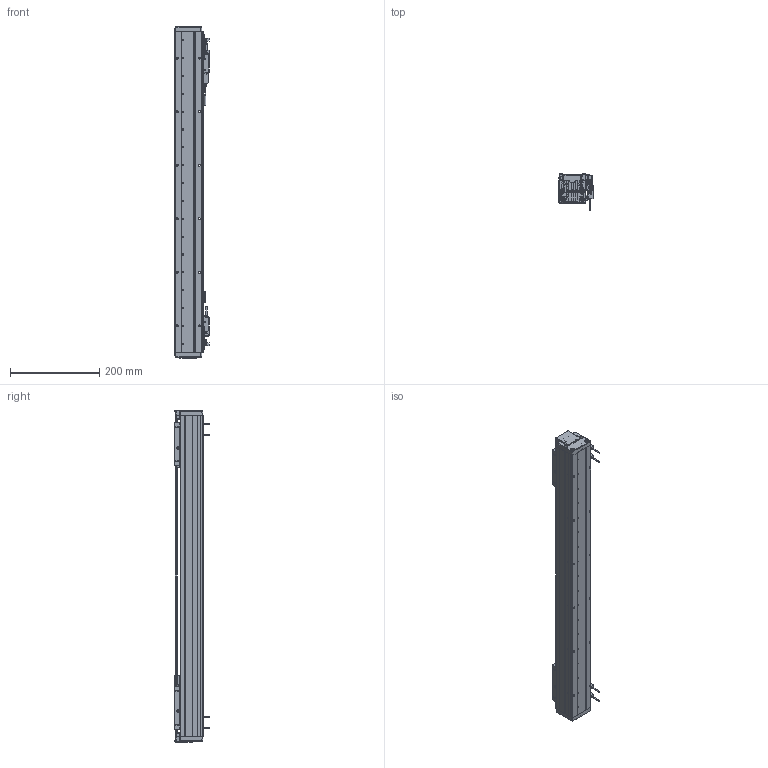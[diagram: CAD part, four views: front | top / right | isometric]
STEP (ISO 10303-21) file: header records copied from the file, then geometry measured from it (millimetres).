
FILE_DESCRIPTION (( 'STEP AP203' ), '1' );
FILE_NAME ('DA-A60-2-B1-T480-C010-0.2 眻盄萇儂.STEP', '2025-08-13T01:15:11', ( '' ), ( '' ), 'SwSTEP 2.0', 'SolidWorks 2019', '' );
FILE_SCHEMA (( 'CONFIG_CONTROL_DESIGN' ));
Length unit declared in the file: millimetre
Products named in the file (27): 葩璃 PM-T45^DA-A60-2-B1-T60-C010-0.2-N; AU60-V 幗紩賑怢; DA60-B1-HT-B-03 賑雄怢啣; DA60-YT-B1-HT-B-01 珨极趙賑雄怢啣-1; ｸｴｼ DA60-DMT-DTJ-ZJ-00 ﾖﾐｼ荼ﾁﾊﾍｷﾖｧｼﾜ^DA-A60-2-B1-T60-C010-0.2-N; DA60-T-002-00  裔啣; ｸｴｼ BAKM01-W030-C1-TP-0.2 ﾖｱﾏﾟｵ扈巐ｯﾗﾓ^DA-A60-2-B1-T60-C010-0.2-N; DA-A60-2-B1-T480-C010-0.2 眻盄萇儂; 复件 DA60-GT-T-00 底座钢轨^AU60-L 底座导轨; ｸｴｼ DA60-GYP-ZJ-01 ﾖﾐｼ荵箏邵ﾐﾓｦﾆｬ^DA-A60-2-B1-T60-C010-0.2-N(ﾄｬﾈﾏ); 葩璃 DA60-DG-H-N-00 傷裔^DA-A60-2-B1-T60-C010-0.2-N; 葩璃 DA60-XJ-00 砎蝶結輸^DA-A60-2-B1-T60-C010-0.2-N; AU60-V 幗紩賑怢-1; AU60-L 菁釱絳寢; 复件 DA60-HC-XJ-01 中间缓冲橡胶^DA-A60-2-B1-T60-C010-0.2-N; 复件 DA60-B1-GT-00 滑块钢轨^DA60-YT-B1-HT-B-01 一体化滑动台板; 葩璃 XD-U-02  棠掑喜^DA-A60-2-B1-T60-C010-0.2-N; IU-AU60-L-00 菁釱(720); 葩璃 DA60-HK-DP-01 結え^AU60-V 幗紩賑怢; 复件 纯铜油杯 6x6mm^AU60-V 滚珠滑台; 葩璃 DMT-010 1米m 0.2M^DA-A60-2-B1-T60-C010-0.2-N; 葩璃 鞠褒情蹟譫 M3^DA-A60-2-B1-T60-C010-0.2-N(GB_FASTENER_NUT_STNAB M3-C); DA60-YT-B1-HT-B-01 珨极趙賑雄怢啣; 葩璃 AKM01-W030-TRL^DA-A60-2-B1-T60-C010-0.2-N; 葩璃 PM-Y65^DA-A60-2-B1-T60-C010-0.2-N; 葩璃 DA60-DMT-DTJ-00 黍杅芛盓殤^DA-A60-2-B1-T60-C010-0.2-N; ｸｴｼ DA-A60-GYP-DMT-00 ｹ箏邵ﾐﾓｦﾆｬ^DA-A60-2-B1-T60-C010-0.2-N(ﾄｬﾈﾏ)
Assembly tree (51 placements, depth 4):
  DA-A60-2-B1-T480-C010-0.2 眻盄萇儂
    AU60-L 菁釱絳寢
      IU-AU60-L-00 菁釱(720)
      复件 DA60-GT-T-00 底座钢轨^AU60-L 底座导轨  x2
    AU60-V 幗紩賑怢
      DA60-YT-B1-HT-B-01 珨极趙賑雄怢啣
        DA60-B1-HT-B-03 賑雄怢啣
        复件 DA60-B1-GT-00 滑块钢轨^DA60-YT-B1-HT-B-01 一体化滑动台板  x2
      葩璃 DA60-HK-DP-01 結え^AU60-V 幗紩賑怢  x2
      复件 纯铜油杯 6x6mm^AU60-V 滚珠滑台
    AU60-V 幗紩賑怢-1
      DA60-YT-B1-HT-B-01 珨极趙賑雄怢啣-1
        DA60-B1-HT-B-03 賑雄怢啣
        复件 DA60-B1-GT-00 滑块钢轨^DA60-YT-B1-HT-B-01 一体化滑动台板  x2
      葩璃 DA60-HK-DP-01 結え^AU60-V 幗紩賑怢  x2
      复件 纯铜油杯 6x6mm^AU60-V 滚珠滑台
    ｸｴｼ DA60-DMT-DTJ-ZJ-00 ﾖﾐｼ荼ﾁﾊﾍｷﾖｧｼﾜ^DA-A60-2-B1-T60-C010-0.2-N
    葩璃 PM-Y65^DA-A60-2-B1-T60-C010-0.2-N
    复件 DA60-HC-XJ-01 中间缓冲橡胶^DA-A60-2-B1-T60-C010-0.2-N  x2
    ｸｴｼ DA60-GYP-ZJ-01 ﾖﾐｼ荵箏邵ﾐﾓｦﾆｬ^DA-A60-2-B1-T60-C010-0.2-N(ﾄｬﾈﾏ)
    ｸｴｼ DA-A60-GYP-DMT-00 ｹ箏邵ﾐﾓｦﾆｬ^DA-A60-2-B1-T60-C010-0.2-N(ﾄｬﾈﾏ)  x2
    葩璃 DA60-DMT-DTJ-00 黍杅芛盓殤^DA-A60-2-B1-T60-C010-0.2-N
    葩璃 DMT-010 1米m 0.2M^DA-A60-2-B1-T60-C010-0.2-N  x2
    ｸｴｼ BAKM01-W030-C1-TP-0.2 ﾖｱﾏﾟｵ扈巐ｯﾗﾓ^DA-A60-2-B1-T60-C010-0.2-N  x2
    葩璃 DA60-XJ-00 砎蝶結輸^DA-A60-2-B1-T60-C010-0.2-N  x2
    葩璃 DA60-DG-H-N-00 傷裔^DA-A60-2-B1-T60-C010-0.2-N  x2
    DA60-T-002-00  裔啣
    葩璃 AKM01-W030-TRL^DA-A60-2-B1-T60-C010-0.2-N
    葩璃 PM-T45^DA-A60-2-B1-T60-C010-0.2-N  x4
    葩璃 XD-U-02  棠掑喜^DA-A60-2-B1-T60-C010-0.2-N
    葩璃 鞠褒情蹟譫 M3^DA-A60-2-B1-T60-C010-0.2-N(GB_FASTENER_NUT_STNAB M3-C)  x8
Bounding box: 76.95 x 80 x 744 mm (x, y, z)
Volume: 1705512.7 mm3; surface area: 615886.1 mm2
Topology: 57 solids, 61 shells, 3746 faces, 9565 edges, 5840 vertices
Faces by surface type: plane 1446, cylinder 1352, bspline 592, cone 342, torus 12, sphere 2
Entity records: 82993 total; most frequent: CARTESIAN_POINT 25456, ORIENTED_EDGE 11684, DIRECTION 10703, EDGE_CURVE 5842, AXIS2_PLACEMENT_3D 3721, VERTEX_POINT 3679, LINE 3261, VECTOR 3261
